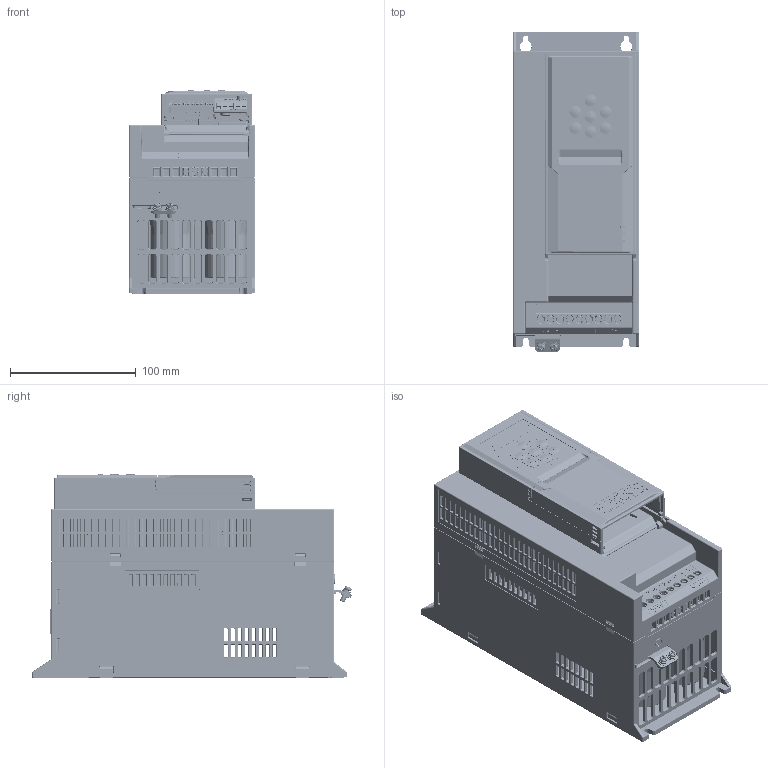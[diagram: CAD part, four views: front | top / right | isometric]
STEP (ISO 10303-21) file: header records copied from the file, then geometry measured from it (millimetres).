
FILE_DESCRIPTION((''),'2;1');
FILE_NAME('AD800-D3-DRIVE_ASM','2025-06-24T16:26:21',('wendong.luo'),(''),'CREO PARAMETRIC BY PTC INC, 2024374','CREO PARAMETRIC BY PTC INC, 2024374','');
FILE_SCHEMA(('CONFIG_CONTROL_DESIGN','GEOMETRIC_VALIDATION_PROPERTIES_MIM'));
Products named in the file (21): D3_MECHANICAL_PART; E0200003; E0400127; E0400017; M0202003; D3-PU_ASM; M0104033; E0100084; E0400023; E0400008; E0400009; E0400001; E0400011; E0100084_ASM; M0203006; M0203025; M0203032_00; M0104034; M0203053; CU_NEW_ASM; AD800-D3-DRIVE_ASM
Assembly tree (23 placements, depth 4):
  AD800-D3-DRIVE_ASM
    D3-PU_ASM
      D3_MECHANICAL_PART
      E0200003  x2
      E0400127
      E0400017
      M0202003  x2
    CU_NEW_ASM
      M0104033
      E0100084_ASM
        E0100084
        E0400023
        E0400008
        E0400009  x2
        E0400001
        E0400011
      M0203006
      M0203025
      M0203032_00
      M0104034
      M0203053
Bounding box: 100 x 254.08 x 161.65 mm (x, y, z)
Volume: 1909623.2 mm3; surface area: 474482.2 mm2
Topology: 22 solids, 43 shells, 18446 faces, 48342 edges, 30748 vertices
Faces by surface type: plane 8603, cylinder 3917, bspline 2613, extrusion 2118, cone 736, torus 365, sphere 94
Entity records: 832287 total; most frequent: CARTESIAN_POINT 271501, ORIENTED_EDGE 91470, DIRECTION 67610, PRESENTATION_STYLE_ASSIGNMENT 46255, EDGE_CURVE 45747, STYLED_ITEM 44618, CURVE_STYLE 43896, VERTEX_POINT 29081
